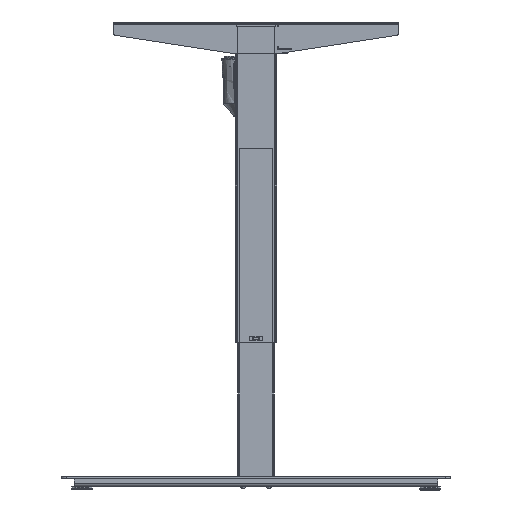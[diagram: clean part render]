
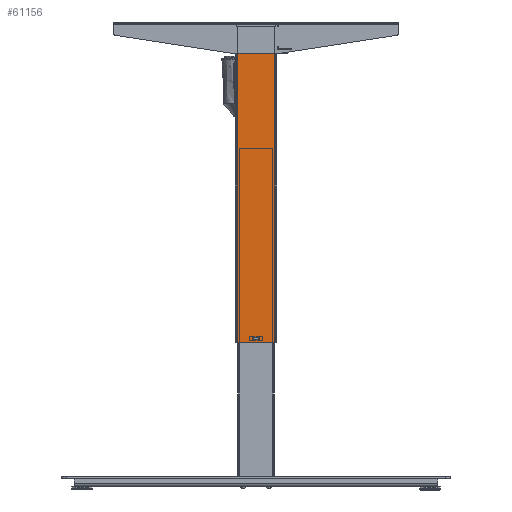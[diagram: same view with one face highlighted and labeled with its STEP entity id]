
A CAD part, left-side view. The second image highlights one B-rep face of the part: STEP entity #61156.
In plain terms, the highlighted planar face has unit normal (-1, 0, 0).
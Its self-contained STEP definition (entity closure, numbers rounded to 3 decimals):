
#473 = LINE ( 'NONE', #73031, #69127 ) ;
#824 = ORIENTED_EDGE ( 'NONE', *, *, #6758, .F. ) ;
#3250 = VERTEX_POINT ( 'NONE', #67417 ) ;
#5385 = CARTESIAN_POINT ( 'NONE',  ( -29.5, 36.5, 0. ) ) ;
#6758 = EDGE_CURVE ( 'NONE', #44954, #63892, #76085, .T. ) ;
#9876 = VECTOR ( 'NONE', #101296, 1000. ) ;
#10750 = DIRECTION ( 'NONE',  ( 0., -1., 0. ) ) ;
#15541 = VECTOR ( 'NONE', #88818, 1000. ) ;
#22455 = LINE ( 'NONE', #87757, #96973 ) ;
#23980 = CARTESIAN_POINT ( 'NONE',  ( -29.5, -36.5, 0. ) ) ;
#24194 = VERTEX_POINT ( 'NONE', #117950 ) ;
#25243 = ORIENTED_EDGE ( 'NONE', *, *, #36356, .T. ) ;
#31702 = DIRECTION ( 'NONE',  ( 0., 1., 0. ) ) ;
#32090 = DIRECTION ( 'NONE',  ( 0., 0., 1. ) ) ;
#33093 = AXIS2_PLACEMENT_3D ( 'NONE', #49320, #106648, #31702 ) ;
#34333 = EDGE_LOOP ( 'NONE', ( #25243, #56702, #68430, #48965 ) ) ;
#36356 = EDGE_CURVE ( 'NONE', #3250, #48798, #22455, .T. ) ;
#36589 = LINE ( 'NONE', #45108, #9876 ) ;
#40501 = LINE ( 'NONE', #5385, #15541 ) ;
#43086 = EDGE_CURVE ( 'NONE', #24194, #3250, #47447, .T. ) ;
#44954 = VERTEX_POINT ( 'NONE', #61107 ) ;
#45108 = CARTESIAN_POINT ( 'NONE',  ( -29.5, -36.5, 614. ) ) ;
#47190 = VECTOR ( 'NONE', #80001, 1000. ) ;
#47447 = LINE ( 'NONE', #112691, #70386 ) ;
#48798 = VERTEX_POINT ( 'NONE', #119109 ) ;
#48965 = ORIENTED_EDGE ( 'NONE', *, *, #43086, .T. ) ;
#49320 = CARTESIAN_POINT ( 'NONE',  ( -29.5, 36.5, 614. ) ) ;
#50497 = PLANE ( 'NONE',  #33093 ) ;
#51007 = EDGE_LOOP ( 'NONE', ( #51162, #824, #119304, #109704 ) ) ;
#51162 = ORIENTED_EDGE ( 'NONE', *, *, #60996, .F. ) ;
#53609 = EDGE_CURVE ( 'NONE', #56949, #24194, #473, .T. ) ;
#56702 = ORIENTED_EDGE ( 'NONE', *, *, #114060, .T. ) ;
#56949 = VERTEX_POINT ( 'NONE', #98225 ) ;
#59656 = DIRECTION ( 'NONE',  ( 0., 0., -1. ) ) ;
#60996 = EDGE_CURVE ( 'NONE', #63892, #85171, #36589, .T. ) ;
#61107 = CARTESIAN_POINT ( 'NONE',  ( -29.5, 36.5, 609. ) ) ;
#61156 = ADVANCED_FACE ( 'NONE', ( #114567, #77718 ), #50497, .F. ) ;
#63892 = VERTEX_POINT ( 'NONE', #111241 ) ;
#67417 = CARTESIAN_POINT ( 'NONE',  ( -29.5, 6., 6. ) ) ;
#68430 = ORIENTED_EDGE ( 'NONE', *, *, #53609, .T. ) ;
#69127 = VECTOR ( 'NONE', #93560, 1000. ) ;
#70386 = VECTOR ( 'NONE', #111500, 1000. ) ;
#73031 = CARTESIAN_POINT ( 'NONE',  ( -29.5, -6., 10. ) ) ;
#75647 = CARTESIAN_POINT ( 'NONE',  ( -29.5, 36.5, 0. ) ) ;
#76085 = LINE ( 'NONE', #93612, #106260 ) ;
#77718 = FACE_OUTER_BOUND ( 'NONE', #51007, .T. ) ;
#79404 = LINE ( 'NONE', #96332, #47190 ) ;
#80001 = DIRECTION ( 'NONE',  ( 0., -1., 0. ) ) ;
#85171 = VERTEX_POINT ( 'NONE', #23980 ) ;
#87757 = CARTESIAN_POINT ( 'NONE',  ( -29.5, 6., 10. ) ) ;
#88818 = DIRECTION ( 'NONE',  ( 0., -1., 0. ) ) ;
#93560 = DIRECTION ( 'NONE',  ( 0., 0., -1. ) ) ;
#93612 = CARTESIAN_POINT ( 'NONE',  ( -29.5, 39.5, 609. ) ) ;
#95419 = VERTEX_POINT ( 'NONE', #75647 ) ;
#96332 = CARTESIAN_POINT ( 'NONE',  ( -29.5, 6., 10. ) ) ;
#96973 = VECTOR ( 'NONE', #32090, 1000. ) ;
#96982 = EDGE_CURVE ( 'NONE', #44954, #95419, #115258, .T. ) ;
#97697 = CARTESIAN_POINT ( 'NONE',  ( -29.5, 36.5, 614. ) ) ;
#98225 = CARTESIAN_POINT ( 'NONE',  ( -29.5, -6., 10. ) ) ;
#98953 = EDGE_CURVE ( 'NONE', #95419, #85171, #40501, .T. ) ;
#101296 = DIRECTION ( 'NONE',  ( 0., 0., -1. ) ) ;
#106260 = VECTOR ( 'NONE', #10750, 1000. ) ;
#106648 = DIRECTION ( 'NONE',  ( 1., 0., 0. ) ) ;
#109704 = ORIENTED_EDGE ( 'NONE', *, *, #98953, .T. ) ;
#111241 = CARTESIAN_POINT ( 'NONE',  ( -29.5, -36.5, 609. ) ) ;
#111500 = DIRECTION ( 'NONE',  ( 0., 1., 0. ) ) ;
#112691 = CARTESIAN_POINT ( 'NONE',  ( -29.5, 6., 6. ) ) ;
#113803 = VECTOR ( 'NONE', #59656, 1000. ) ;
#114060 = EDGE_CURVE ( 'NONE', #48798, #56949, #79404, .T. ) ;
#114567 = FACE_BOUND ( 'NONE', #34333, .T. ) ;
#115258 = LINE ( 'NONE', #97697, #113803 ) ;
#117950 = CARTESIAN_POINT ( 'NONE',  ( -29.5, -6., 6. ) ) ;
#119109 = CARTESIAN_POINT ( 'NONE',  ( -29.5, 6., 10. ) ) ;
#119304 = ORIENTED_EDGE ( 'NONE', *, *, #96982, .T. ) ;
